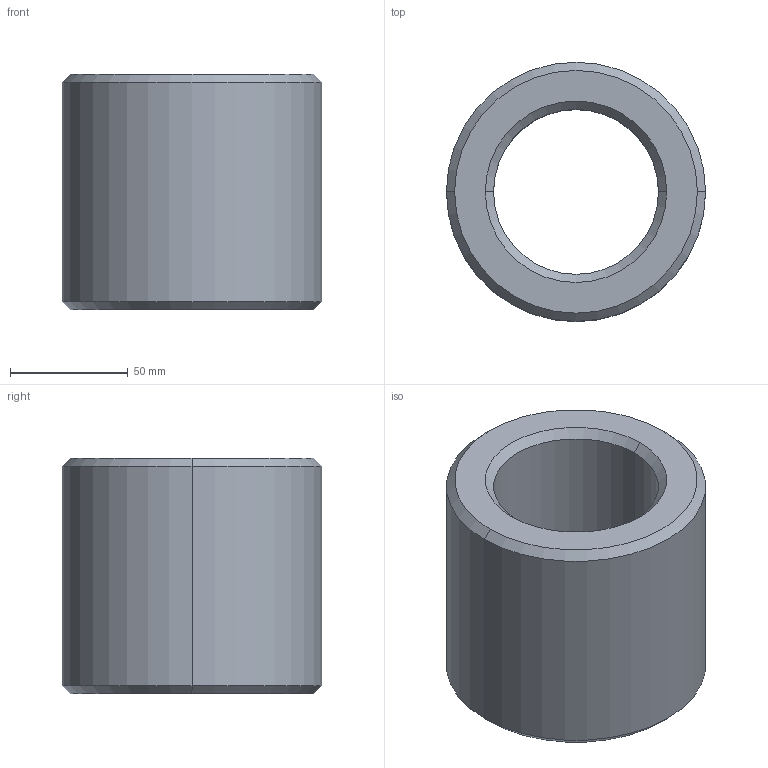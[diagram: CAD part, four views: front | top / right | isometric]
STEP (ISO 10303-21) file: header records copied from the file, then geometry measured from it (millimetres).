
FILE_DESCRIPTION (( 'STEP AP203' ), '1' );
FILE_NAME ('L1339.L70-10.step', '2024-10-24T14:07:26', ( '' ), ( '' ), 'SwSTEP 2.0', 'SolidWorks 2019', '' );
FILE_SCHEMA (( 'CONFIG_CONTROL_DESIGN' ));
Length unit declared in the file: millimetre
Products named in the file (1): L1339.L70-10
Bounding box: 110 x 110 x 100 mm (x, y, z)
Volume: 558559.5 mm3; surface area: 65539.6 mm2
Topology: 1 solids, 1 shells, 14 faces, 28 edges, 16 vertices
Faces by surface type: cone 8, cylinder 4, plane 2
Entity records: 445 total; most frequent: DIRECTION 74, CARTESIAN_POINT 59, ORIENTED_EDGE 56, AXIS2_PLACEMENT_3D 31, EDGE_CURVE 28, EDGE_LOOP 16, VERTEX_POINT 16, CIRCLE 16
